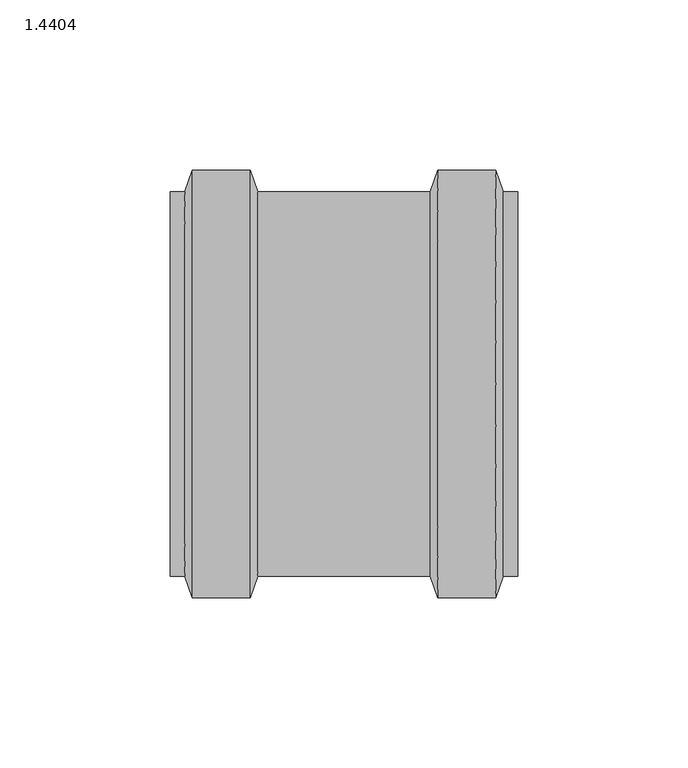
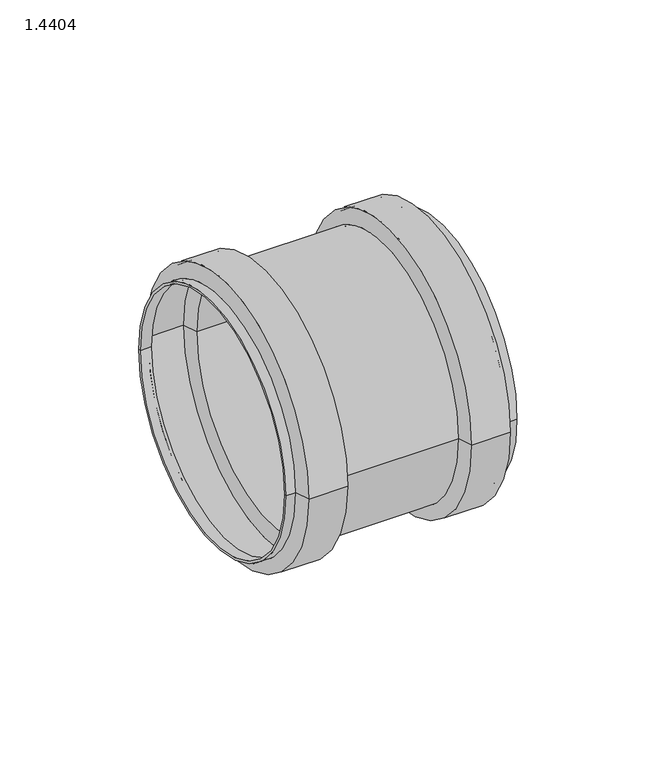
"""IFC4 building model written with IfcOpenShell, lengths in millimetres: pipe fitting geometry, PIF_ST_UN_ACO pipe repair coupling_ACO : 1.4404."""

from ifc_helpers import new_model, si_unit, frame, origin, place, context, project, spatial, polyline, circle_curve, source, transform, mapped, element, save
from ifc_brep_helpers import plane_surface, cylinder_surface, revolved_surface, advanced_brep


def pipe_fitting_1_4404_6c9c62c8(model_context):
    return source(origin(), model_context, "Body", "AdvancedBrep", [
        advanced_brep(
        [(51.0, -55.5, 0.0), (51.0, 55.5, 0.0), (46.0, 55.5, 0.0), (46.0, -55.5, 0.0), (51.0, -56.5, 0.0), (51.0, 56.5, 0.0), (46.7081434, -56.5, 0.0), (46.7081434, 56.5, 0.0), (44.5081434, -62.75, 0.0), (44.5081434, 62.75, 0.0), (27.4918566, -62.75, 0.0), (27.4918566, 62.75, 0.0), (25.2918566, -56.5, 0.0), (25.2918566, 56.5, 0.0), (-25.2918566, -56.5, 0.0), (-25.2918566, 56.5, 0.0), (-27.4918566, -62.75, 0.0), (-27.4918566, 62.75, 0.0), (-44.5081434, -62.75, 0.0), (-44.5081434, 62.75, 0.0), (-46.7081434, -56.5, 0.0), (-46.7081434, 56.5, 0.0), (-51.0, -56.5, 0.0), (-51.0, 56.5, 0.0), (-51.0, -55.5, 0.0), (-51.0, 55.5, 0.0), (-46.0, -55.5, 0.0), (-46.0, 55.5, 0.0), (-43.8, -61.75, 0.0), (-43.8, 61.75, 0.0), (-28.2, -61.75, 0.0), (-28.2, 61.75, 0.0), (-26.0, -55.5, 0.0), (-26.0, 55.5, 0.0), (26.0, -55.5, 0.0), (26.0, 55.5, 0.0), (28.2, -61.75, 0.0), (28.2, 61.75, 0.0), (43.8, -61.75, 0.0), (43.8, 61.75, 0.0)],
        [
            (0, 1, circle_curve(frame((51.0, 0.0, 0.0), z_axis=(1.0, 0.0, 0.0), x_axis=(0.0, 1.0, 0.0)), 55.5)),
            (1, 2),
            (2, 3, circle_curve(frame((46.0, 0.0, 0.0), z_axis=(-1.0, 0.0, 0.0), x_axis=(0.0, 1.0, 0.0)), 55.5)),
            (3, 0),
            (1, 0, circle_curve(frame((51.0, 0.0, 0.0), z_axis=(1.0, 0.0, 0.0), x_axis=(0.0, 1.0, 0.0)), 55.5)),
            (3, 2, circle_curve(frame((46.0, 0.0, 0.0), z_axis=(-1.0, 0.0, 0.0), x_axis=(0.0, 1.0, 0.0)), 55.5)),
            (4, 5, circle_curve(frame((51.0, 0.0, 0.0), z_axis=(1.0, 0.0, 0.0), x_axis=(0.0, 1.0, 0.0)), 56.5)),
            (5, 1),
            (0, 4),
            (5, 4, circle_curve(frame((51.0, 0.0, 0.0), z_axis=(1.0, 0.0, 0.0), x_axis=(0.0, 1.0, 0.0)), 56.5)),
            (6, 7, circle_curve(frame((46.7081434, 0.0, 0.0), z_axis=(1.0, 0.0, 0.0), x_axis=(0.0, 1.0, 0.0)), 56.5)),
            (7, 5),
            (4, 6),
            (7, 6, circle_curve(frame((46.7081434, 0.0, 0.0), z_axis=(1.0, 0.0, 0.0), x_axis=(0.0, 1.0, 0.0)), 56.5)),
            (8, 9, circle_curve(frame((44.5081434, 0.0, 0.0), z_axis=(1.0, 0.0, 0.0), x_axis=(0.0, 1.0, 0.0)), 62.75)),
            (9, 7),
            (6, 8),
            (9, 8, circle_curve(frame((44.5081434, 0.0, 0.0), z_axis=(1.0, 0.0, 0.0), x_axis=(0.0, 1.0, 0.0)), 62.75)),
            (10, 11, circle_curve(frame((27.4918566, 0.0, 0.0), z_axis=(1.0, 0.0, 0.0), x_axis=(0.0, 1.0, 0.0)), 62.75)),
            (11, 9),
            (8, 10),
            (11, 10, circle_curve(frame((27.4918566, 0.0, 0.0), z_axis=(1.0, 0.0, 0.0), x_axis=(0.0, 1.0, 0.0)), 62.75)),
            (12, 13, circle_curve(frame((25.2918566, 0.0, 0.0), z_axis=(1.0, 0.0, 0.0), x_axis=(0.0, 1.0, 0.0)), 56.5)),
            (13, 11),
            (10, 12),
            (13, 12, circle_curve(frame((25.2918566, 0.0, 0.0), z_axis=(1.0, 0.0, 0.0), x_axis=(0.0, 1.0, 0.0)), 56.5)),
            (14, 15, circle_curve(frame((-25.2918566, 0.0, 0.0), z_axis=(1.0, 0.0, 0.0), x_axis=(0.0, 1.0, 0.0)), 56.5)),
            (15, 13),
            (12, 14),
            (15, 14, circle_curve(frame((-25.2918566, 0.0, 0.0), z_axis=(1.0, 0.0, 0.0), x_axis=(0.0, 1.0, 0.0)), 56.5)),
            (16, 17, circle_curve(frame((-27.4918566, 0.0, 0.0), z_axis=(1.0, 0.0, 0.0), x_axis=(0.0, 1.0, 0.0)), 62.75)),
            (17, 15),
            (14, 16),
            (17, 16, circle_curve(frame((-27.4918566, 0.0, 0.0), z_axis=(1.0, 0.0, 0.0), x_axis=(0.0, 1.0, 0.0)), 62.75)),
            (18, 19, circle_curve(frame((-44.5081434, 0.0, 0.0), z_axis=(1.0, 0.0, 0.0), x_axis=(0.0, 1.0, 0.0)), 62.75)),
            (19, 17),
            (16, 18),
            (19, 18, circle_curve(frame((-44.5081434, 0.0, 0.0), z_axis=(1.0, 0.0, 0.0), x_axis=(0.0, 1.0, 0.0)), 62.75)),
            (20, 21, circle_curve(frame((-46.7081434, 0.0, 0.0), z_axis=(1.0, 0.0, 0.0), x_axis=(0.0, 1.0, 0.0)), 56.5)),
            (21, 19),
            (18, 20),
            (21, 20, circle_curve(frame((-46.7081434, 0.0, 0.0), z_axis=(1.0, 0.0, 0.0), x_axis=(0.0, 1.0, 0.0)), 56.5)),
            (22, 23, circle_curve(frame((-51.0, 0.0, 0.0), z_axis=(1.0, 0.0, 0.0), x_axis=(0.0, 1.0, 0.0)), 56.5)),
            (23, 21),
            (20, 22),
            (23, 22, circle_curve(frame((-51.0, 0.0, 0.0), z_axis=(1.0, 0.0, 0.0), x_axis=(0.0, 1.0, 0.0)), 56.5)),
            (24, 25, circle_curve(frame((-51.0, 0.0, 0.0), z_axis=(1.0, 0.0, 0.0), x_axis=(0.0, 1.0, 0.0)), 55.5)),
            (25, 23),
            (22, 24),
            (25, 24, circle_curve(frame((-51.0, 0.0, 0.0), z_axis=(1.0, 0.0, 0.0), x_axis=(0.0, 1.0, 0.0)), 55.5)),
            (26, 27, circle_curve(frame((-46.0, 0.0, 0.0), z_axis=(1.0, 0.0, 0.0), x_axis=(0.0, 1.0, 0.0)), 55.5)),
            (27, 25),
            (24, 26),
            (27, 26, circle_curve(frame((-46.0, 0.0, 0.0), z_axis=(1.0, 0.0, 0.0), x_axis=(0.0, 1.0, 0.0)), 55.5)),
            (28, 29, circle_curve(frame((-43.8, 0.0, 0.0), z_axis=(1.0, 0.0, 0.0), x_axis=(0.0, 1.0, 0.0)), 61.75)),
            (29, 27),
            (26, 28),
            (29, 28, circle_curve(frame((-43.8, 0.0, 0.0), z_axis=(1.0, 0.0, 0.0), x_axis=(0.0, 1.0, 0.0)), 61.75)),
            (30, 31, circle_curve(frame((-28.2, 0.0, 0.0), z_axis=(1.0, 0.0, 0.0), x_axis=(0.0, 1.0, 0.0)), 61.75)),
            (31, 29),
            (28, 30),
            (31, 30, circle_curve(frame((-28.2, 0.0, 0.0), z_axis=(1.0, 0.0, 0.0), x_axis=(0.0, 1.0, 0.0)), 61.75)),
            (32, 33, circle_curve(frame((-26.0, 0.0, 0.0), z_axis=(1.0, 0.0, 0.0), x_axis=(0.0, 1.0, 0.0)), 55.5)),
            (33, 31),
            (30, 32),
            (33, 32, circle_curve(frame((-26.0, 0.0, 0.0), z_axis=(1.0, 0.0, 0.0), x_axis=(0.0, 1.0, 0.0)), 55.5)),
            (34, 35, circle_curve(frame((26.0, 0.0, 0.0), z_axis=(1.0, 0.0, 0.0), x_axis=(0.0, 1.0, 0.0)), 55.5)),
            (35, 33),
            (32, 34),
            (35, 34, circle_curve(frame((26.0, 0.0, 0.0), z_axis=(1.0, 0.0, 0.0), x_axis=(0.0, 1.0, 0.0)), 55.5)),
            (36, 37, circle_curve(frame((28.2, 0.0, 0.0), z_axis=(1.0, 0.0, 0.0), x_axis=(0.0, 1.0, 0.0)), 61.75)),
            (37, 35),
            (34, 36),
            (37, 36, circle_curve(frame((28.2, 0.0, 0.0), z_axis=(1.0, 0.0, 0.0), x_axis=(0.0, 1.0, 0.0)), 61.75)),
            (38, 39, circle_curve(frame((43.8, 0.0, 0.0), z_axis=(1.0, 0.0, 0.0), x_axis=(0.0, 1.0, 0.0)), 61.75)),
            (39, 37),
            (36, 38),
            (39, 38, circle_curve(frame((43.8, 0.0, 0.0), z_axis=(1.0, 0.0, 0.0), x_axis=(0.0, 1.0, 0.0)), 61.75)),
            (2, 39),
            (38, 3),
        ],
        [
            revolved_surface(polyline([(45.99999999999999, 55.5, 0.0), (50.99999999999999, 55.5, 0.0)]), (-36.8232889, 0.0, 0.0), (-1.0, 0.0, 0.0)),
            plane_surface(frame((51.0, 0.0, 0.0), z_axis=(1.0, 0.0, 0.0), x_axis=(0.0, 1.0, 0.0))),
            cylinder_surface(frame((-36.8232889, 0.0, 0.0), z_axis=(-1.0, 0.0, 0.0), x_axis=(0.0, 1.0, 0.0)), 56.5),
            revolved_surface(polyline([(46.7081434, 56.5, 0.0), (44.5081434, 62.75, 0.0)]), (-36.8232889, 0.0, 0.0), (-1.0, 0.0, 0.0)),
            cylinder_surface(frame((-36.8232889, 0.0, 0.0), z_axis=(-1.0, 0.0, 0.0), x_axis=(0.0, 1.0, 0.0)), 62.75),
            revolved_surface(polyline([(27.4918566, 62.75, 0.0), (25.2918566, 56.5, 0.0)]), (-36.8232889, 0.0, 0.0), (-1.0, 0.0, 0.0)),
            revolved_surface(polyline([(-25.2918566, 56.5, 0.0), (-27.4918566, 62.75, 0.0)]), (-36.8232889, 0.0, 0.0), (-1.0, 0.0, 0.0)),
            revolved_surface(polyline([(-44.5081434, 62.75, 0.0), (-46.7081434, 56.5, 0.0)]), (-36.8232889, 0.0, 0.0), (-1.0, 0.0, 0.0)),
            plane_surface(frame((-51.0, 0.0, 0.0), z_axis=(-1.0, 0.0, 0.0), x_axis=(0.0, 1.0, 0.0))),
            revolved_surface(polyline([(-51.0, 55.5, 0.0), (-46.0, 55.5, 0.0)]), (-36.8232889, 0.0, 0.0), (-1.0, 0.0, 0.0)),
            revolved_surface(polyline([(-46.0, 55.5, 0.0), (-43.8, 61.75, 0.0)]), (-36.8232889, 0.0, 0.0), (-1.0, 0.0, 0.0)),
            revolved_surface(polyline([(-43.8, 61.75, 0.0), (-28.2, 61.75, 0.0)]), (-36.8232889, 0.0, 0.0), (-1.0, 0.0, 0.0)),
            revolved_surface(polyline([(-28.2, 61.75, 0.0), (-26.0, 55.5, 0.0)]), (-36.8232889, 0.0, 0.0), (-1.0, 0.0, 0.0)),
            revolved_surface(polyline([(-26.0, 55.5, 0.0), (26.0, 55.5, 0.0)]), (-36.8232889, 0.0, 0.0), (-1.0, 0.0, 0.0)),
            revolved_surface(polyline([(26.0, 55.5, 0.0), (28.2, 61.75, 0.0)]), (-36.8232889, 0.0, 0.0), (-1.0, 0.0, 0.0)),
            revolved_surface(polyline([(28.199999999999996, 61.75, 0.0), (43.800000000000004, 61.75, 0.0)]), (-36.8232889, 0.0, 0.0), (-1.0, 0.0, 0.0)),
            revolved_surface(polyline([(43.8, 61.75, 0.0), (46.0, 55.5, 0.0)]), (-36.8232889, 0.0, 0.0), (-1.0, 0.0, 0.0)),
        ],
        [
            (0, [[1, 2, 3, 4]]),
            (0, [[5, -4, 6, -2]]),
            (1, [[7, 8, -1, 9]]),
            (1, [[10, -9, -5, -8]]),
            (2, [[11, 12, -7, 13]]),
            (2, [[14, -13, -10, -12]]),
            (3, [[15, 16, -11, 17]]),
            (3, [[18, -17, -14, -16]]),
            (4, [[19, 20, -15, 21]]),
            (4, [[22, -21, -18, -20]]),
            (5, [[23, 24, -19, 25]]),
            (5, [[26, -25, -22, -24]]),
            (2, [[27, 28, -23, 29]]),
            (2, [[30, -29, -26, -28]]),
            (6, [[31, 32, -27, 33]]),
            (6, [[34, -33, -30, -32]]),
            (4, [[35, 36, -31, 37]]),
            (4, [[38, -37, -34, -36]]),
            (7, [[39, 40, -35, 41]]),
            (7, [[42, -41, -38, -40]]),
            (2, [[43, 44, -39, 45]]),
            (2, [[46, -45, -42, -44]]),
            (8, [[47, 48, -43, 49]]),
            (8, [[50, -49, -46, -48]]),
            (9, [[51, 52, -47, 53]]),
            (9, [[54, -53, -50, -52]]),
            (10, [[55, 56, -51, 57]]),
            (10, [[58, -57, -54, -56]]),
            (11, [[59, 60, -55, 61]]),
            (11, [[62, -61, -58, -60]]),
            (12, [[63, 64, -59, 65]]),
            (12, [[66, -65, -62, -64]]),
            (13, [[67, 68, -63, 69]]),
            (13, [[70, -69, -66, -68]]),
            (14, [[71, 72, -67, 73]]),
            (14, [[74, -73, -70, -72]]),
            (15, [[75, 76, -71, 77]]),
            (15, [[78, -77, -74, -76]]),
            (16, [[-3, 79, -75, 80]]),
            (16, [[-6, -80, -78, -79]]),
        ],
    ),
    ])


if __name__ == "__main__":
    model = new_model("IFC4")
    model_context = context("Model", 3, world=origin())
    ifc_project = project(units=[si_unit("LENGTHUNIT", "METRE", prefix="MILLI")], contexts=[model_context])
    site = spatial("IfcSite", under=ifc_project)
    building = spatial("IfcBuilding", under=site)
    placement = place(None, origin())
    pipe_fitting_1_4404_shape = pipe_fitting_1_4404_6c9c62c8(model_context)
    element("IfcPipeFitting", 1, ObjectType="PIF_ST_UN_ACO pipe repair coupling_ACO : 1.4404", at=placement, inside=building, context=model_context, shape_type="MappedRepresentation", body=[
        mapped(pipe_fitting_1_4404_shape, transform((0.0, 0.0, 0.0), x_axis=(1.0, 0.0, 0.0), y_axis=(0.0, 1.0, 0.0), z_axis=(0.0, 0.0, 1.0))),
    ])
    save(model, "model.ifc")
